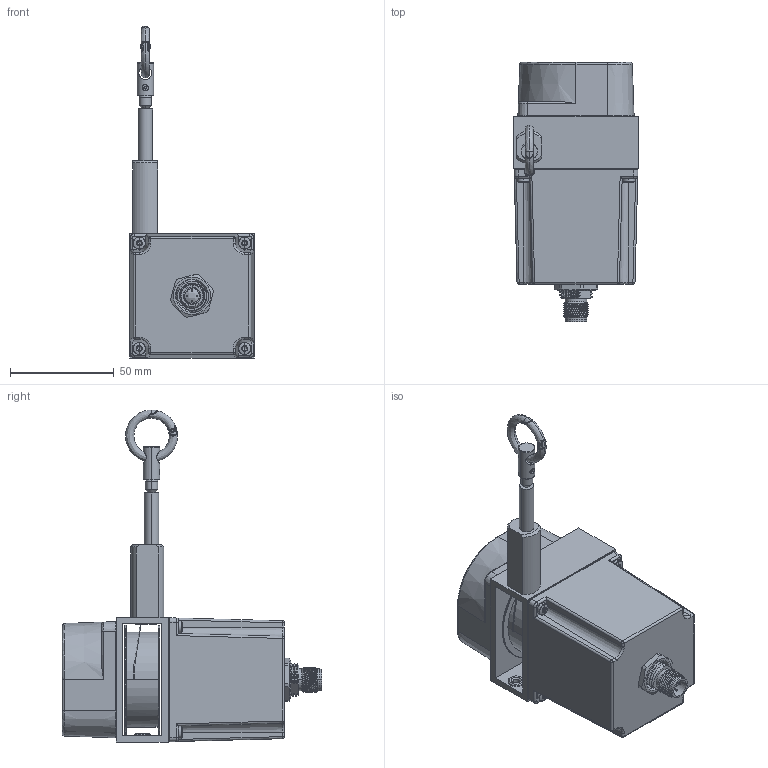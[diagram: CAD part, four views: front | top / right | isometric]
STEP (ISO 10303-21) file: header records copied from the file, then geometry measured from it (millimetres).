
FILE_DESCRIPTION (( 'STEP AP214' ), '1' );
FILE_NAME ('Z_D8.C60_mit_Seilturm.STEP', '2018-05-23T05:59:50', ( '' ), ( '' ), 'SwSTEP 2.0', 'SolidWorks 2017', '' );
FILE_SCHEMA (( 'AUTOMOTIVE_DESIGN' ));
Length unit declared in the file: millimetre
Products named in the file (1): Z_D8.C60_mit_Seilturm
Bounding box: 60 x 125 x 160 mm (x, y, z)
Surface area: 55179.6 mm2 (no closed solid volume)
Topology: 0 solids, 53 shells, 548 faces, 1746 edges, 1195 vertices
Faces by surface type: cylinder 228, bspline 114, plane 100, cone 86, torus 20
Entity records: 40837 total; most frequent: CARTESIAN_POINT 21065, ORIENTED_EDGE 2794, DIRECTION 2529, EDGE_CURVE 1735, VERTEX_POINT 1195, AXIS2_PLACEMENT_3D 994, EDGE_LOOP 611, B_SPLINE_CURVE_WITH_KNOTS 573
